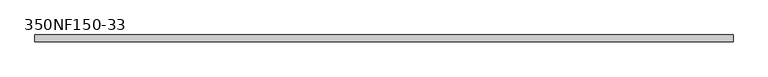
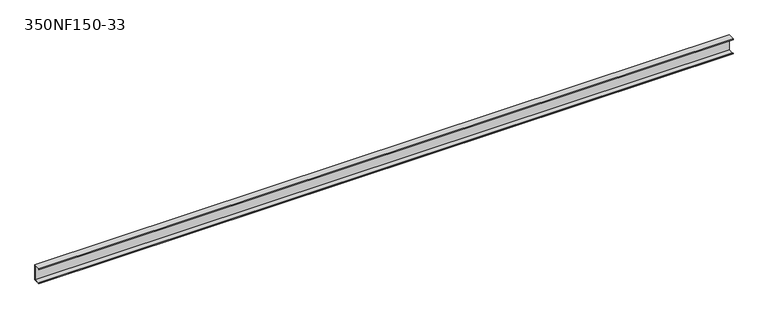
"""IFC4 building model written with IfcOpenShell, lengths in millimetres: beam geometry, BIMSF-SSMA-S : 350NF150-33."""

from ifc_helpers import new_model, si_unit, frame, origin, place, context, project, spatial, polyline, outline, extrude, source, transform, mapped, element, save


def beam_350nf150_33_de9c2924(model_context):
    return source(origin(), model_context, "Body", "SweptSolid", [
        extrude(outline(polyline([(19.05, 44.45), (19.05, -44.45), (-19.05, -44.45), (-19.05, -39.6748), (-18.1676842, -39.6748), (-18.1676842, -43.5676842), (18.1676842, -43.5676842), (18.1676842, 43.5676842), (-18.1676842, 43.5676842), (-18.1676842, 39.6748), (-19.05, 39.6748), (-19.05, 44.45), (19.05, 44.45)])), frame((-1939.0052482, 0.0, 0.0), z_axis=(1.0, 0.0, 0.0), x_axis=(0.0, 1.0, 0.0)), (0.0, 0.0, 1.0), 3878.0104965),
    ])


if __name__ == "__main__":
    model = new_model("IFC4")
    model_context = context("Model", 3, world=origin())
    ifc_project = project(units=[si_unit("LENGTHUNIT", "METRE", prefix="MILLI")], contexts=[model_context])
    site = spatial("IfcSite", under=ifc_project)
    building = spatial("IfcBuilding", under=site)
    placement = place(None, origin())
    beam_350nf150_33_shape = beam_350nf150_33_de9c2924(model_context)
    element("IfcBeam", 1, ObjectType="BIMSF-SSMA-S : 350NF150-33", at=placement, inside=building, context=model_context, shape_type="MappedRepresentation", body=[
        mapped(beam_350nf150_33_shape, transform((0.0, 0.0, 0.0), x_axis=(1.0, 0.0, 0.0), y_axis=(0.0, 1.0, 0.0), z_axis=(0.0, 0.0, 1.0))),
    ])
    save(model, "model.ifc")
